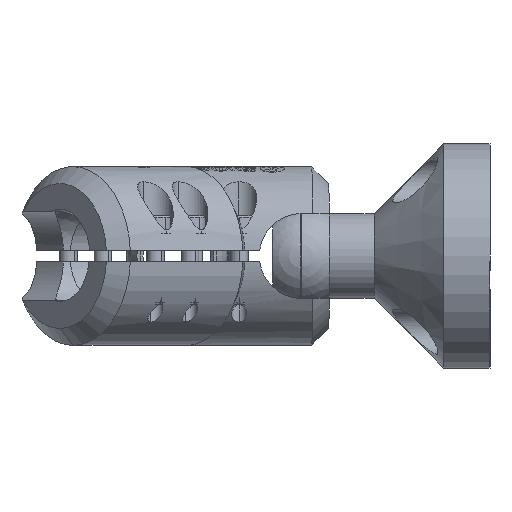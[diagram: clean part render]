
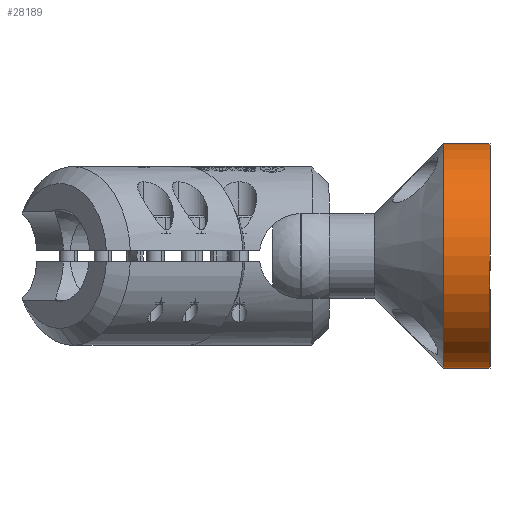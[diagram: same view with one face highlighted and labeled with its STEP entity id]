
A CAD part, left-side view. The second image highlights one B-rep face of the part: STEP entity #28189.
In plain terms, the highlighted cylindrical face has radius 31.559 mm (diameter 63.119 mm), a partial arc.
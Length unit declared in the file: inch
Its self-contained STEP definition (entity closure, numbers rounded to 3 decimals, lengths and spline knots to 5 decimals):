
#2096 = AXIS2_PLACEMENT_3D ( 'NONE', #26997, #34935, #17858 ) ;
#3494 = EDGE_CURVE ( 'NONE', #28679, #31265, #28304, .T. ) ;
#3772 = DIRECTION ( 'NONE',  ( 0., -1., 0. ) ) ;
#4131 = ORIENTED_EDGE ( 'NONE', *, *, #17353, .F. ) ;
#4282 = CARTESIAN_POINT ( 'NONE',  ( -0.00266, -0.255, 1.2425 ) ) ;
#6502 = ORIENTED_EDGE ( 'NONE', *, *, #25011, .T. ) ;
#7100 = DIRECTION ( 'NONE',  ( 0., 1., 0. ) ) ;
#9608 = DIRECTION ( 'NONE',  ( 0., 1., 0. ) ) ;
#9873 = CARTESIAN_POINT ( 'NONE',  ( -0.00266, 0.255, -1.2425 ) ) ;
#12540 = FACE_OUTER_BOUND ( 'NONE', #30003, .T. ) ;
#12721 = CYLINDRICAL_SURFACE ( 'NONE', #2096, 1.2425 ) ;
#12883 = VECTOR ( 'NONE', #7100, 39.37008 ) ;
#15430 = CARTESIAN_POINT ( 'NONE',  ( -0.00266, 0.255, 1.2425 ) ) ;
#15463 = AXIS2_PLACEMENT_3D ( 'NONE', #26163, #21023, #34464 ) ;
#17353 = EDGE_CURVE ( 'NONE', #31265, #32376, #31877, .T. ) ;
#17858 = DIRECTION ( 'NONE',  ( 0., 0., 1. ) ) ;
#18096 = DIRECTION ( 'NONE',  ( 0., 0., 1. ) ) ;
#20722 = CIRCLE ( 'NONE', #15463, 1.2425 ) ;
#21023 = DIRECTION ( 'NONE',  ( 0., -1., 0. ) ) ;
#22438 = AXIS2_PLACEMENT_3D ( 'NONE', #28909, #3772, #18096 ) ;
#23083 = VERTEX_POINT ( 'NONE', #15430 ) ;
#23569 = ORIENTED_EDGE ( 'NONE', *, *, #3494, .F. ) ;
#24780 = EDGE_CURVE ( 'NONE', #23083, #32376, #20722, .T. ) ;
#24806 = VECTOR ( 'NONE', #9608, 39.37008 ) ;
#25011 = EDGE_CURVE ( 'NONE', #28679, #23083, #32193, .T. ) ;
#26163 = CARTESIAN_POINT ( 'NONE',  ( -0.00266, 0.255, 0. ) ) ;
#26711 = CARTESIAN_POINT ( 'NONE',  ( -0.00266, -0.255, -1.2425 ) ) ;
#26997 = CARTESIAN_POINT ( 'NONE',  ( -0.00266, -0.255, 0. ) ) ;
#28189 = ADVANCED_FACE ( 'NONE', ( #12540 ), #12721, .T. ) ;
#28304 = CIRCLE ( 'NONE', #22438, 1.2425 ) ;
#28679 = VERTEX_POINT ( 'NONE', #34137 ) ;
#28909 = CARTESIAN_POINT ( 'NONE',  ( -0.00266, -0.255, 0. ) ) ;
#30003 = EDGE_LOOP ( 'NONE', ( #4131, #23569, #6502, #31487 ) ) ;
#31265 = VERTEX_POINT ( 'NONE', #34222 ) ;
#31487 = ORIENTED_EDGE ( 'NONE', *, *, #24780, .T. ) ;
#31877 = LINE ( 'NONE', #26711, #12883 ) ;
#32193 = LINE ( 'NONE', #4282, #24806 ) ;
#32376 = VERTEX_POINT ( 'NONE', #9873 ) ;
#34137 = CARTESIAN_POINT ( 'NONE',  ( -0.00266, -0.255, 1.2425 ) ) ;
#34222 = CARTESIAN_POINT ( 'NONE',  ( -0.00266, -0.255, -1.2425 ) ) ;
#34464 = DIRECTION ( 'NONE',  ( 0., 0., 1. ) ) ;
#34935 = DIRECTION ( 'NONE',  ( 0., 1., 0. ) ) ;
